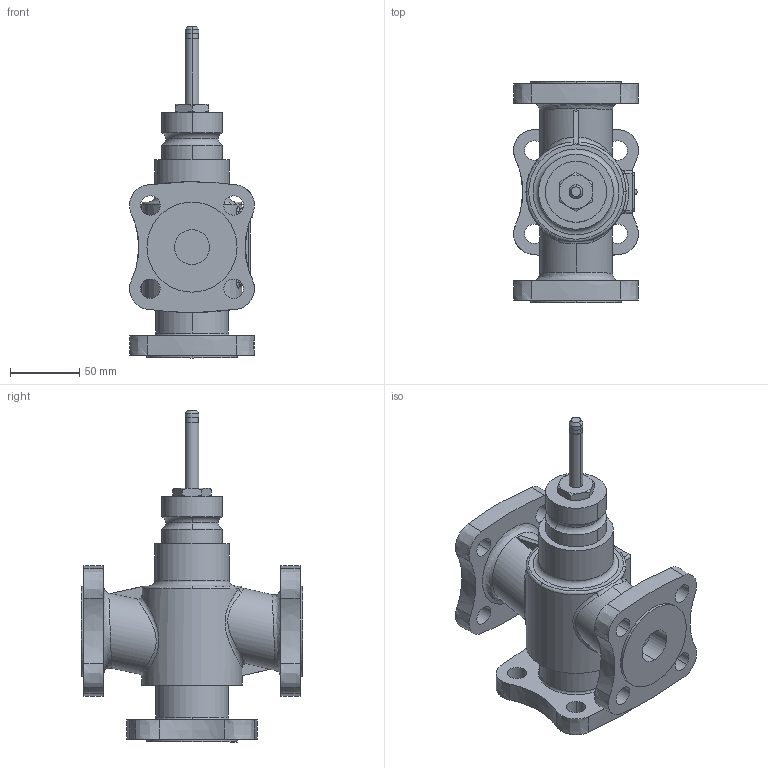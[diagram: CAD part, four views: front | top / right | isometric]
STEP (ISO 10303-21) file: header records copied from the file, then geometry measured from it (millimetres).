
FILE_DESCRIPTION(/* description */ ('Step214'),/* implementation_level */ '2;1');
FILE_NAME(/* name */ 'VXF53 DN25 RF.stp',/* time_stamp */ '2015-11-04T13:47:52+01:00',/* author */ (''),/* organization */ ('Siemens'),/* preprocessor_version */ 'ST-DEVELOPER v15',/* originating_system */ 'SIEMENS PLM Software NX 8.5',/* authorisation */ 'for Duktil only');
FILE_SCHEMA (('AUTOMOTIVE_DESIGN { 1 0 10303 214 3 1 1 1 }'));
Length unit declared in the file: millimetre
Products named in the file (1): Volc0CEC07D0afg8
Bounding box: 90.09 x 160 x 239.49 mm (x, y, z)
Volume: 916002.9 mm3; surface area: 107306 mm2
Topology: 1 solids, 1 shells, 172 faces, 441 edges, 287 vertices
Faces by surface type: cylinder 71, plane 42, extrusion 30, torus 11, bspline 10, cone 6, sphere 2
Full cylindrical faces by diameter (mm): 54 x1
Entity records: 8226 total; most frequent: CARTESIAN_POINT 4109, ORIENTED_EDGE 866, DIRECTION 796, EDGE_CURVE 433, AXIS2_PLACEMENT_3D 310, VERTEX_POINT 285, EDGE_LOOP 218, VECTOR 176
